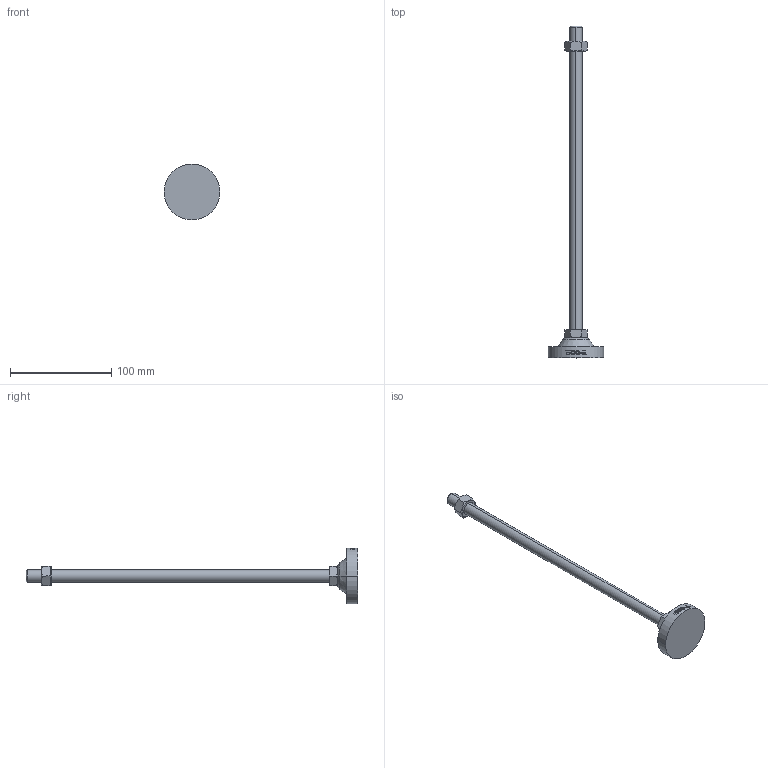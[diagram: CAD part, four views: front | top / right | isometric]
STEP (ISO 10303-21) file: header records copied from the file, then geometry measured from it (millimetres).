
FILE_DESCRIPTION (( 'STEP AP214' ), '1' );
FILE_NAME ('RB55-M12-300.step', '2021-01-18T05:49:25', ( '' ), ( '' ), 'SwSTEP 2.0', 'SolidWorks 2019', '' );
FILE_SCHEMA (( 'AUTOMOTIVE_DESIGN' ));
Length unit declared in the file: millimetre
Products named in the file (2): RB55-M12-300
Bounding box: 55 x 328 x 55 mm (x, y, z)
Volume: 67892.6 mm3; surface area: 21956.7 mm2
Topology: 2 solids, 3 shells, 128 faces, 317 edges, 206 vertices
Faces by surface type: plane 48, cylinder 42, bspline 18, cone 16, torus 4
Entity records: 5349 total; most frequent: CARTESIAN_POINT 2507, ORIENTED_EDGE 634, DIRECTION 479, EDGE_CURVE 317, VERTEX_POINT 206, AXIS2_PLACEMENT_3D 176, EDGE_LOOP 141, ADVANCED_FACE 128
